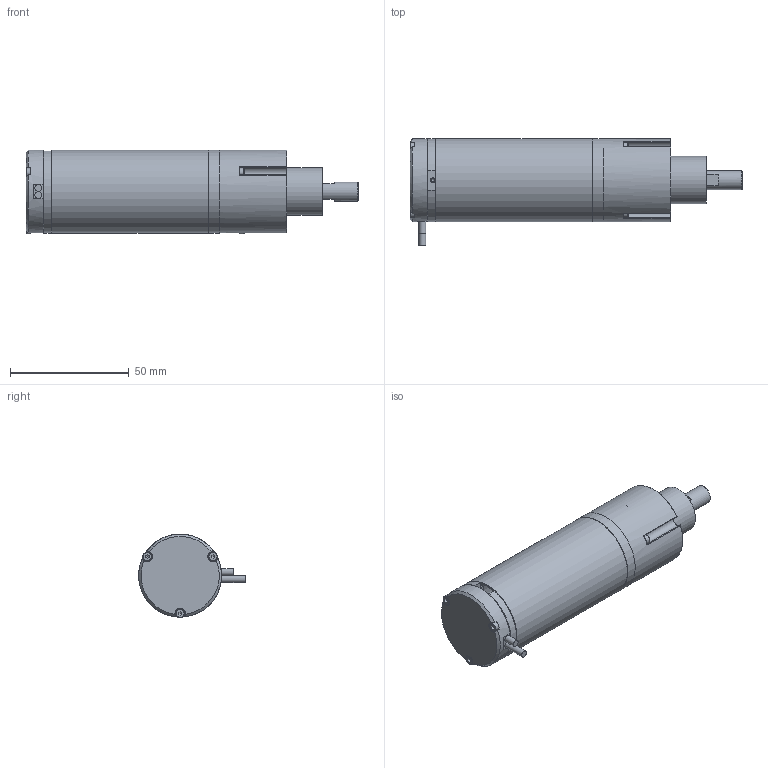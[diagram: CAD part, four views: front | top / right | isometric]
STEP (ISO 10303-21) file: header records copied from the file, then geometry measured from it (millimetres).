
FILE_DESCRIPTION((''),'2;1');
FILE_NAME('D:\SMAC-CAD\CBL\CBL35\CBL35-010\ASSY\CBL35-025-YY-3D_B.stp','2013-11-27T14:15:52',('ToanVu'),(''),'Autodesk Inventor 2008','Autodesk Inventor 2008','');
FILE_SCHEMA(('AUTOMOTIVE_DESIGN { 1 0 10303 214 1 1 1 1 }'));
Length unit declared in the file: millimetre
Products named in the file (10): CBL35-025-YY-3D_B; 18568-01_C; 14714-04_C; 14714-25_B; 14714-26_B; CBL35-CABLE; CA2-35-10COVER; CBL35CABLE-GRO; 21564-05_A; Broached Socket Head Cap Screw - Metric M2x0.4 x 3
Assembly tree (16 placements, depth 3):
  CBL35-025-YY-3D_B
    18568-01_C
    14714-04_C
    14714-25_B
    14714-26_B
    CBL35-CABLE
      CA2-35-10COVER
      CBL35CABLE-GRO
    21564-05_A
    Broached Socket Head Cap Screw - Metric M2x0.4 x 3  x8
Bounding box: 140 x 45 x 35.4 mm (x, y, z)
Volume: 53015.2 mm3; surface area: 35666.9 mm2
Topology: 15 solids, 15 shells, 329 faces, 800 edges, 510 vertices
Faces by surface type: plane 133, bspline 87, cylinder 62, cone 39, torus 8
Full cylindrical faces by diameter (mm): 2 x9, 2.9 x2, 3.8 x8, 4 x1, 6 x1, 8 x1, 10 x1, 10.5 x2, 11.5 x1, 15 x2, 16 x1, 18.4 x1, 20 x1, 27 x1, 35 x4
Entity records: 7521 total; most frequent: CARTESIAN_POINT 2500, DIRECTION 986, ORIENTED_EDGE 864, EDGE_CURVE 432, AXIS2_PLACEMENT_3D 420, EDGE_LOOP 376, VERTEX_POINT 323, CIRCLE 250
